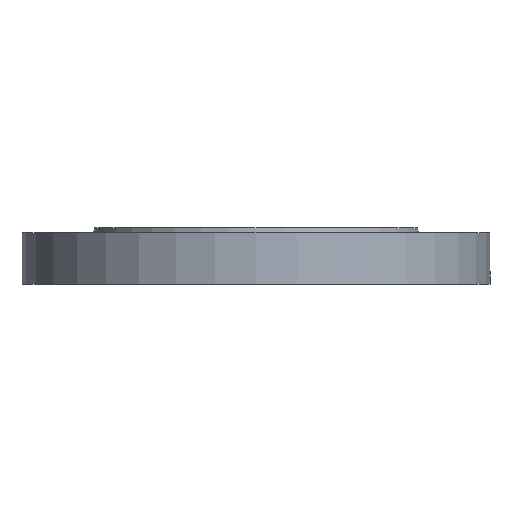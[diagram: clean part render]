
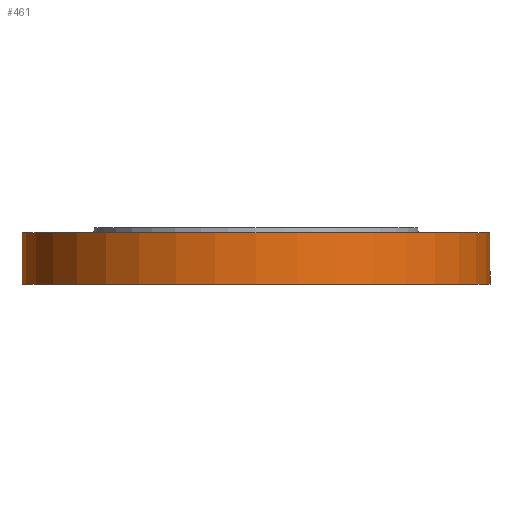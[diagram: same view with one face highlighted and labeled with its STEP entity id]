
A CAD part, front view. The second image highlights one B-rep face of the part: STEP entity #461.
In plain terms, the highlighted cylindrical face has radius 100 mm (diameter 200 mm), a partial arc.
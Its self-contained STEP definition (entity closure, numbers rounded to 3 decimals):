
#119 = CARTESIAN_POINT ( 'NONE',  ( -100., 0., -24. ) ) ;
#142 = CIRCLE ( 'NONE', #767, 100. ) ;
#143 = CARTESIAN_POINT ( 'NONE',  ( 100., 0., -2. ) ) ;
#154 = CARTESIAN_POINT ( 'NONE',  ( -100., 0., -2. ) ) ;
#169 = CARTESIAN_POINT ( 'NONE',  ( 100., 0., -24. ) ) ;
#257 = EDGE_CURVE ( 'NONE', #848, #836, #142, .T. ) ;
#305 = CIRCLE ( 'NONE', #494, 100. ) ;
#322 = DIRECTION ( 'NONE',  ( 0., 0., 1. ) ) ;
#323 = CARTESIAN_POINT ( 'NONE',  ( 100., 0., -68. ) ) ;
#324 = LINE ( 'NONE', #323, #538 ) ;
#325 = DIRECTION ( 'NONE',  ( -1., 0., 0. ) ) ;
#328 = DIRECTION ( 'NONE',  ( 0., 0., -1. ) ) ;
#329 = CARTESIAN_POINT ( 'NONE',  ( 0., 0., -24. ) ) ;
#350 = DIRECTION ( 'NONE',  ( 0., 0., 1. ) ) ;
#351 = CARTESIAN_POINT ( 'NONE',  ( -100., 0., -68. ) ) ;
#353 = LINE ( 'NONE', #351, #666 ) ;
#456 = AXIS2_PLACEMENT_3D ( 'NONE', #462, #460, #458 ) ;
#458 = DIRECTION ( 'NONE',  ( 1., 0., 0. ) ) ;
#460 = DIRECTION ( 'NONE',  ( 0., 0., 1. ) ) ;
#461 = ADVANCED_FACE ( 'NONE', ( #465 ), #463, .T. ) ;
#462 = CARTESIAN_POINT ( 'NONE',  ( 0., 0., -68. ) ) ;
#463 = CYLINDRICAL_SURFACE ( 'NONE', #456, 100. ) ;
#465 = FACE_OUTER_BOUND ( 'NONE', #851, .T. ) ;
#494 = AXIS2_PLACEMENT_3D ( 'NONE', #329, #328, #325 ) ;
#532 = CARTESIAN_POINT ( 'NONE',  ( 0., 0., -2. ) ) ;
#538 = VECTOR ( 'NONE', #322, 1000. ) ;
#556 = DIRECTION ( 'NONE',  ( 0., 0., -1. ) ) ;
#562 = DIRECTION ( 'NONE',  ( -1., 0., 0. ) ) ;
#632 = EDGE_CURVE ( 'NONE', #856, #836, #353, .T. ) ;
#666 = VECTOR ( 'NONE', #350, 1000. ) ;
#687 = EDGE_CURVE ( 'NONE', #825, #856, #305, .T. ) ;
#689 = EDGE_CURVE ( 'NONE', #825, #848, #324, .T. ) ;
#767 = AXIS2_PLACEMENT_3D ( 'NONE', #532, #556, #562 ) ;
#825 = VERTEX_POINT ( 'NONE', #169 ) ;
#836 = VERTEX_POINT ( 'NONE', #154 ) ;
#848 = VERTEX_POINT ( 'NONE', #143 ) ;
#851 = EDGE_LOOP ( 'NONE', ( #968, #969, #971, #972 ) ) ;
#856 = VERTEX_POINT ( 'NONE', #119 ) ;
#968 = ORIENTED_EDGE ( 'NONE', *, *, #632, .F. ) ;
#969 = ORIENTED_EDGE ( 'NONE', *, *, #687, .F. ) ;
#971 = ORIENTED_EDGE ( 'NONE', *, *, #689, .T. ) ;
#972 = ORIENTED_EDGE ( 'NONE', *, *, #257, .T. ) ;
